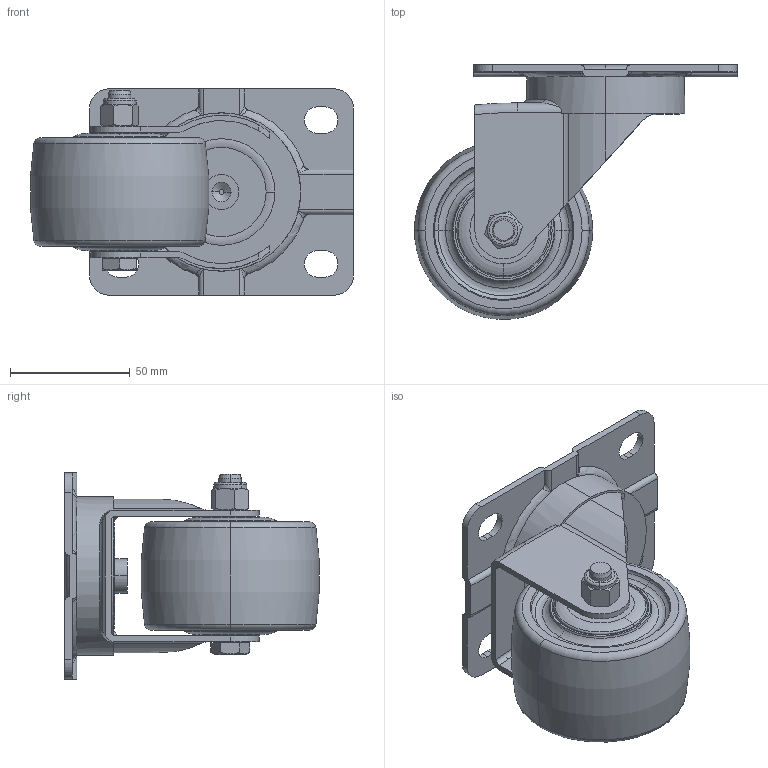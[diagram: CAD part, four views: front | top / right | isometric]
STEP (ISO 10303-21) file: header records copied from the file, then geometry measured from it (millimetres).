
FILE_DESCRIPTION (( 'STEP AP203' ), '1' );
FILE_NAME ('4111603002074-7.STEP', '2025-11-27T06:31:06', ( '' ), ( '' ), 'SwSTEP 2.0', 'SolidWorks 2019', '' );
FILE_SCHEMA (( 'CONFIG_CONTROL_DESIGN' ));
Length unit declared in the file: millimetre
Products named in the file (1): 4111603002074-7
Bounding box: 134.62 x 106.04 x 86 mm (x, y, z)
Volume: 287438.8 mm3; surface area: 63989.5 mm2
Topology: 2 solids, 3 shells, 280 faces, 683 edges, 430 vertices
Faces by surface type: cylinder 101, plane 80, torus 67, cone 12, bspline 12, sphere 8
Entity records: 9347 total; most frequent: CARTESIAN_POINT 2628, DIRECTION 1472, ORIENTED_EDGE 1350, EDGE_CURVE 675, AXIS2_PLACEMENT_3D 624, VERTEX_POINT 430, CIRCLE 355, EDGE_LOOP 323
